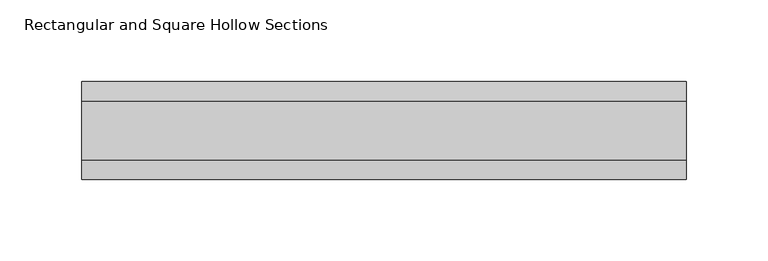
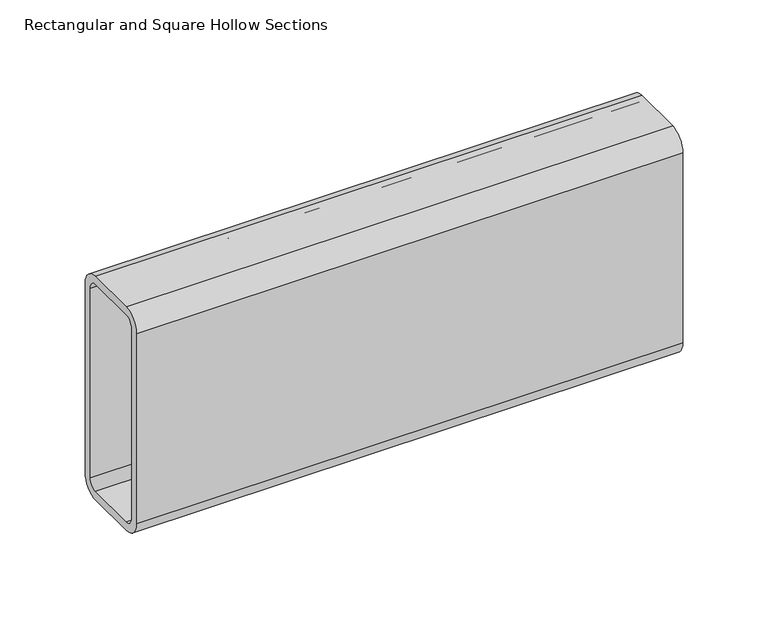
"""IFC4 building model written with IfcOpenShell, lengths in millimetres: beam geometry, Rectangular and Square Hollow Sections : TREC160x60x6."""

import ifcopenshell
import ifcopenshell.guid

model = None  # the IFC model being written
_history = None  # IfcOwnerHistory: only IFC2X3 demands one
_inside = {}  # id of a spatial element -> (the spatial element, [elements in it])
_under = {}  # id of a project, library or spatial element -> (it, [spatial elements below it])
_declared = {}  # id of a project -> (the project, [libraries it declares])
_typed = {}  # id of a type object -> (the type object, [elements of that type])
_made_of = {}  # id of a material, layer set ... -> (it, [elements and type objects made of it])


def new_model(schema):
    """Start an empty IFC model of exactly this schema.

    Asked for "IFC4X3", IfcOpenShell would pick the latest addendum, in which some entities
    have other attributes; the version numbers below select the first issue.
    IFC2X3 requires an IfcOwnerHistory on every rooted entity: one is made here for all.
    """
    global model, _history
    if schema == "IFC4X3":
        model = ifcopenshell.file(schema_version=(4, 3, 0, 0))
    else:
        model = ifcopenshell.file(schema=schema)
    _inside.clear()
    _under.clear()
    _declared.clear()
    _typed.clear()
    _made_of.clear()
    _history = None
    if model.schema == "IFC2X3":
        org = make("IfcOrganization", Name="unknown")
        user = make(
            "IfcPersonAndOrganization",
            ThePerson=make("IfcPerson", FamilyName="unknown"),
            TheOrganization=org,
        )
        app = make(
            "IfcApplication",
            ApplicationDeveloper=org,
            Version="unknown",
            ApplicationFullName="unknown",
            ApplicationIdentifier="unknown",
        )
        _history = make(
            "IfcOwnerHistory",
            OwningUser=user,
            OwningApplication=app,
            ChangeAction="ADDED",
            CreationDate=0,
        )
    return model


def make(cls, **values):
    """One entity of the class cls with the attributes given. An attribute that is None is left unset."""
    return model.create_entity(
        cls, **{name: value for name, value in values.items() if value is not None}
    )


def rooted(cls, **values):
    """An entity with a GlobalId (a new one), such as an element, a storey or a relation."""
    return make(cls, GlobalId=ifcopenshell.guid.new(), OwnerHistory=_history, **values)


def si_unit(unit_type, name, prefix=None):
    """IfcSIUnit, for example si_unit("LENGTHUNIT", "METRE", prefix="MILLI")."""
    return make("IfcSIUnit", UnitType=unit_type, Prefix=prefix, Name=name)


def assignment(units):
    """IfcUnitAssignment: the units of a project."""
    return None if units is None else make("IfcUnitAssignment", Units=units)


def point(xyz):
    """IfcCartesianPoint."""
    return None if xyz is None else make("IfcCartesianPoint", Coordinates=xyz)


def direction(xyz):
    """IfcDirection."""
    return None if xyz is None else make("IfcDirection", DirectionRatios=xyz)


def frame(location, z_axis=None, x_axis=None):
    """IfcAxis2Placement3D, a coordinate frame: its origin and axes. An axis left out is left unset."""
    return make(
        "IfcAxis2Placement3D",
        Location=point(location),
        Axis=direction(z_axis),
        RefDirection=direction(x_axis),
    )


def frame_2d(location, x_axis=None):
    """IfcAxis2Placement2D, a coordinate frame in the plane: its origin and x axis."""
    return make(
        "IfcAxis2Placement2D", Location=point(location), RefDirection=direction(x_axis)
    )


def origin():
    """The frame at (0, 0, 0) with its axes left unset."""
    return frame((0.0, 0.0, 0.0))


def place(relative_to, where):
    """IfcLocalPlacement: puts the frame where relative to a parent placement (None: the world)."""
    return make(
        "IfcLocalPlacement", PlacementRelTo=relative_to, RelativePlacement=where
    )


def context(
    kind, dimensions, precision=None, world=None, true_north=None, identifier=None
):
    """IfcGeometricRepresentationContext, for example the 3D "Model" context."""
    return make(
        "IfcGeometricRepresentationContext",
        ContextIdentifier=identifier,
        ContextType=kind,
        CoordinateSpaceDimension=dimensions,
        Precision=precision,
        WorldCoordinateSystem=world,
        TrueNorth=true_north,
    )


def project(units=None, contexts=None):
    """IfcProject with its units and contexts."""
    return rooted(
        "IfcProject",
        Name="project",
        RepresentationContexts=contexts,
        UnitsInContext=assignment(units),
    )


def spatial(cls, under=None, at=None, **own):
    """A site, building, storey or space (cls), placed at a placement, below another one or the project."""
    s = rooted(cls, ObjectPlacement=at, **own)
    if under is not None:
        _under.setdefault(under.id(), (under, []))[1].append(s)
    return s


def polyline(points):
    """IfcPolyline through the points."""
    return make("IfcPolyline", Points=[point(p) for p in points])


def circle_curve(where, radius):
    """IfcCircle in the frame where."""
    return make("IfcCircle", Position=where, Radius=radius)


def trimmed(basis, trim1, trim2, sense, master):
    """IfcTrimmedCurve: the piece of a basis curve between two trims."""
    return make(
        "IfcTrimmedCurve",
        BasisCurve=basis,
        Trim1=trim1,
        Trim2=trim2,
        SenseAgreement=sense,
        MasterRepresentation=master,
    )


def segment(curve, same_sense, transition):
    """IfcCompositeCurveSegment."""
    return make(
        "IfcCompositeCurveSegment",
        Transition=transition,
        SameSense=same_sense,
        ParentCurve=curve,
    )


def composite_curve(segments, self_intersect=None):
    """IfcCompositeCurve: segments joined end to end."""
    return make("IfcCompositeCurve", Segments=segments, SelfIntersect=self_intersect)


def outline(outer, holes=None, kind="AREA"):
    """IfcArbitraryClosedProfileDef: a profile drawn as a closed curve; with holes, ...WithVoids."""
    if holes is None:
        return make("IfcArbitraryClosedProfileDef", ProfileType=kind, OuterCurve=outer)
    return make(
        "IfcArbitraryProfileDefWithVoids",
        ProfileType=kind,
        OuterCurve=outer,
        InnerCurves=holes,
    )


def extrude(swept, where, along, depth):
    """IfcExtrudedAreaSolid: the profile swept, set in the frame where, extruded along a direction by depth."""
    return make(
        "IfcExtrudedAreaSolid",
        SweptArea=swept,
        Position=where,
        ExtrudedDirection=direction(along),
        Depth=depth,
    )


def shape(context_of_items, identifier, shape_type, items):
    """IfcShapeRepresentation: the items that make up one representation, for example the "Body"."""
    return make(
        "IfcShapeRepresentation",
        ContextOfItems=context_of_items,
        RepresentationIdentifier=identifier,
        RepresentationType=shape_type,
        Items=items,
    )


def source(mapping_origin, context_of_items, identifier, shape_type, items):
    """IfcRepresentationMap: a shape defined once, which mapped items show again and again."""
    return make(
        "IfcRepresentationMap",
        MappingOrigin=mapping_origin,
        MappedRepresentation=shape(context_of_items, identifier, shape_type, items),
    )


def transform(
    local_origin,
    x_axis=None,
    y_axis=None,
    z_axis=None,
    scale=None,
    scale2=None,
    scale3=None,
    uniform=True,
):
    """IfcCartesianTransformationOperator3D, or its non-uniform kind. x_axis, y_axis, z_axis: its Axis1, 2, 3."""
    if uniform:
        return make(
            "IfcCartesianTransformationOperator3D",
            Axis1=direction(x_axis),
            Axis2=direction(y_axis),
            LocalOrigin=point(local_origin),
            Scale=scale,
            Axis3=direction(z_axis),
        )
    return make(
        "IfcCartesianTransformationOperator3DnonUniform",
        Axis1=direction(x_axis),
        Axis2=direction(y_axis),
        LocalOrigin=point(local_origin),
        Scale=scale,
        Axis3=direction(z_axis),
        Scale2=scale2,
        Scale3=scale3,
    )


def mapped(mapping_source, mapping_target):
    """IfcMappedItem: shows the shape of a source again, moved by a transform."""
    return make(
        "IfcMappedItem", MappingSource=mapping_source, MappingTarget=mapping_target
    )


def made_of(thing, what):
    """Note that an element or type object is made of a material, layer set ...; save() writes the relation."""
    if what is not None:
        _made_of.setdefault(what.id(), (what, []))[1].append(thing)
    return thing


def element(
    cls,
    number,
    at=None,
    inside=None,
    cuts=None,
    type_object=None,
    material=None,
    context=None,
    identifier="Body",
    shape_type=None,
    held_by="IfcProductDefinitionShape",
    body=None,
    shapes=None,
    **own,
):
    """One element of the class cls, such as IfcWall. Its Tag is "e" and its number.

    at: its placement. inside: the storey or other place that contains it. cuts: it is an
    opening in that element (IfcRelVoidsElement). A single representation is given by context,
    identifier, shape_type and body (its items); several are given by shapes. held_by: the class
    of the entity that holds the representations. save() writes the other relations.
    """
    e = rooted(cls, Tag="e%d" % number, ObjectPlacement=at, **own)
    if body is not None:
        shapes = [shape(context, identifier, shape_type, body)]
    if shapes is not None:
        e.Representation = make(held_by, Representations=shapes)
    if inside is not None:
        _inside.setdefault(inside.id(), (inside, []))[1].append(e)
    if cuts is not None:
        rooted(
            "IfcRelVoidsElement", RelatingBuildingElement=cuts, RelatedOpeningElement=e
        )
    if type_object is not None:
        _typed.setdefault(type_object.id(), (type_object, []))[1].append(e)
    return made_of(e, material)


def aggregate(whole, parts):
    """IfcRelAggregates: a whole, such as a stair, and the parts it consists of."""
    return rooted("IfcRelAggregates", RelatingObject=whole, RelatedObjects=parts)


def save(model, path):
    """Write the relations noted so far, then the file.

    IfcRelAggregates (storeys below a building ...), IfcRelContainedInSpatialStructure (elements
    in a storey), IfcRelDefinesByType, IfcRelAssociatesMaterial and IfcRelDeclares: one each for
    every whole, place, type object, material and project.
    """
    for whole, parts in _under.values():
        aggregate(whole, parts)
    for where, things in _inside.values():
        rooted(
            "IfcRelContainedInSpatialStructure",
            RelatedElements=things,
            RelatingStructure=where,
        )
    for kind, things in _typed.values():
        rooted("IfcRelDefinesByType", RelatedObjects=things, RelatingType=kind)
    for what, things in _made_of.values():
        rooted("IfcRelAssociatesMaterial", RelatedObjects=things, RelatingMaterial=what)
    for by, libraries in _declared.values():
        rooted("IfcRelDeclares", RelatingContext=by, RelatedDefinitions=libraries)
    model.write(path)


def rectangular_and_square_hollow_sections_a85866e6(model_context):
    return source(origin(), model_context, "Body", "SweptSolid", [
        extrude(outline(composite_curve([segment(polyline([(30.0, 68.0), (30.0, -68.0)]), True, "CONTINUOUS"), segment(trimmed(circle_curve(frame_2d((18.0, -68.0)), 12.0), [point((30.0, -68.0))], [point((18.0, -80.0))], False, "CARTESIAN"), True, "CONTINUOUS"), segment(polyline([(18.0, -80.0), (-18.0, -80.0)]), True, "CONTINUOUS"), segment(trimmed(circle_curve(frame_2d((-18.0, -68.0)), 12.0), [point((-18.0, -80.0))], [point((-30.0, -68.0))], False, "CARTESIAN"), True, "CONTINUOUS"), segment(polyline([(-30.0, -68.0), (-30.0, 68.0)]), True, "CONTINUOUS"), segment(trimmed(circle_curve(frame_2d((-18.0, 68.0)), 12.0), [point((-30.0, 68.0))], [point((-18.0, 80.0))], False, "CARTESIAN"), True, "CONTINUOUS"), segment(polyline([(-18.0, 80.0), (18.0, 80.0)]), True, "CONTINUOUS"), segment(trimmed(circle_curve(frame_2d((18.0, 68.0)), 12.0), [point((18.0, 80.0))], [point((30.0, 68.0))], False, "CARTESIAN"), True, "CONTINUOUS")], self_intersect=False), holes=[composite_curve([segment(trimmed(circle_curve(frame_2d((-18.0, 68.0)), 6.0), [point((-18.0, 74.0))], [point((-24.0, 68.0))], True, "CARTESIAN"), True, "CONTINUOUS"), segment(polyline([(-24.0, 68.0), (-24.0, -68.0)]), True, "CONTINUOUS"), segment(trimmed(circle_curve(frame_2d((-18.0, -68.0)), 6.0), [point((-24.0, -68.0))], [point((-18.0, -74.0))], True, "CARTESIAN"), True, "CONTINUOUS"), segment(polyline([(-18.0, -74.0), (18.0, -74.0)]), True, "CONTINUOUS"), segment(trimmed(circle_curve(frame_2d((18.0, -68.0)), 6.0), [point((18.0, -74.0))], [point((24.0, -68.0))], True, "CARTESIAN"), True, "CONTINUOUS"), segment(polyline([(24.0, -68.0), (24.0, 68.0)]), True, "CONTINUOUS"), segment(trimmed(circle_curve(frame_2d((18.0, 68.0)), 6.0), [point((24.0, 68.0))], [point((18.0, 74.0))], True, "CARTESIAN"), True, "CONTINUOUS"), segment(polyline([(18.0, 74.0), (-18.0, 74.0)]), True, "CONTINUOUS")], self_intersect=False)]), frame((-177.5, 0.0, 0.0), z_axis=(1.0, 0.0, 0.0), x_axis=(0.0, 1.0, 0.0)), (0.0, 0.0, 1.0), 370.0),
    ])


if __name__ == "__main__":
    model = new_model("IFC4")
    model_context = context("Model", 3, world=origin())
    ifc_project = project(units=[si_unit("LENGTHUNIT", "METRE", prefix="MILLI")], contexts=[model_context])
    site = spatial("IfcSite", under=ifc_project)
    building = spatial("IfcBuilding", under=site)
    placement = place(None, origin())
    rectangular_and_square_hollow_sections_shape = rectangular_and_square_hollow_sections_a85866e6(model_context)
    element("IfcBeam", 1, ObjectType="Rectangular and Square Hollow Sections : TREC160x60x6", at=placement, inside=building, context=model_context, shape_type="MappedRepresentation", body=[
        mapped(rectangular_and_square_hollow_sections_shape, transform((0.0, 0.0, 0.0), x_axis=(1.0, 0.0, 0.0), y_axis=(0.0, 1.0, 0.0), z_axis=(0.0, 0.0, 1.0))),
    ])
    save(model, "model.ifc")
